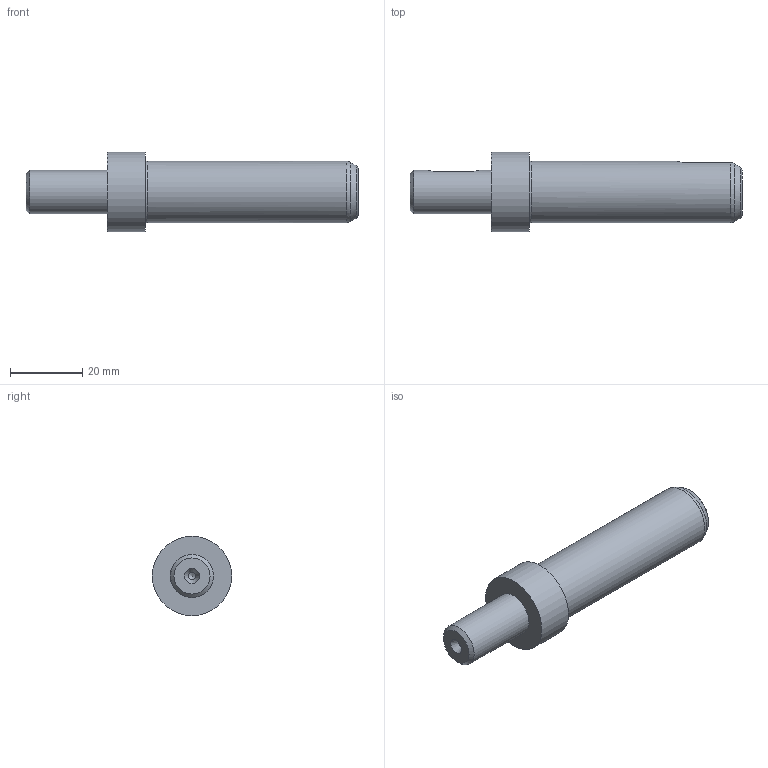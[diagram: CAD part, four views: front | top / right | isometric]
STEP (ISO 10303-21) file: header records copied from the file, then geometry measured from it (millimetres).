
FILE_DESCRIPTION(/* description */ (''),/* implementation_level */ '2;1');
FILE_NAME(/* name */ '',/* time_stamp */ '2025-04-29T13:35:34+09:00',/* author */ ('jhkim'),/* organization */ (''),/* preprocessor_version */ 'ST-DEVELOPER v20.1',/* originating_system */ 'Autodesk Inventor 2026',/* authorisation */ '');
FILE_SCHEMA (('AUTOMOTIVE_DESIGN { 1 0 10303 214 3 1 1 }'));
Length unit declared in the file: millimetre
Products named in the file (1): 서브 축
Bounding box: 92 x 22 x 22 mm (x, y, z)
Volume: 19396.3 mm3; surface area: 5594.7 mm2
Topology: 1 solids, 1 shells, 27 faces, 64 edges, 42 vertices
Faces by surface type: plane 10, cylinder 8, cone 6, torus 3
Full cylindrical faces by diameter (mm): 2 x2, 12 x1, 17 x1, 22 x1
Entity records: 874 total; most frequent: CARTESIAN_POINT 214, DIRECTION 129, ORIENTED_EDGE 124, EDGE_CURVE 62, AXIS2_PLACEMENT_3D 51, VERTEX_POINT 42, EDGE_LOOP 32, FACE_OUTER_BOUND 27
